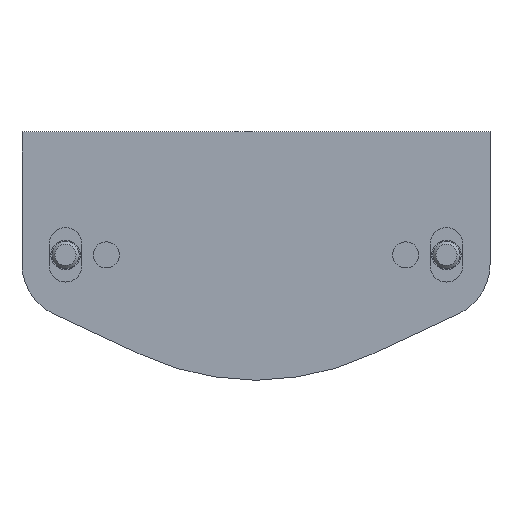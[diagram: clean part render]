
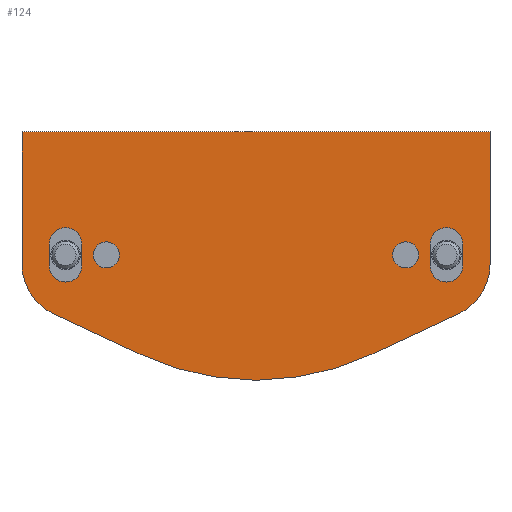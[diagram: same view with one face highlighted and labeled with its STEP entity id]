
A CAD part, front view. The second image highlights one B-rep face of the part: STEP entity #124.
In plain terms, the highlighted planar face has unit normal (0, -1, 0).
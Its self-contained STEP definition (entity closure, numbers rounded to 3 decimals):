
#124 = ADVANCED_FACE( '', ( #276, #277, #278, #279, #280 ), #281, .F. );
#276 = FACE_BOUND( '', #476, .T. );
#277 = FACE_BOUND( '', #477, .T. );
#278 = FACE_BOUND( '', #478, .T. );
#279 = FACE_BOUND( '', #479, .T. );
#280 = FACE_OUTER_BOUND( '', #480, .T. );
#281 = PLANE( '', #481 );
#476 = EDGE_LOOP( '', ( #918 ) );
#477 = EDGE_LOOP( '', ( #919 ) );
#478 = EDGE_LOOP( '', ( #920, #921, #922, #923 ) );
#479 = EDGE_LOOP( '', ( #924, #925, #926, #927 ) );
#480 = EDGE_LOOP( '', ( #928, #929, #930, #931, #932, #933, #934, #935, #936, #937 ) );
#481 = AXIS2_PLACEMENT_3D( '', #938, #939, #940 );
#918 = ORIENTED_EDGE( '', *, *, #1344, .T. );
#919 = ORIENTED_EDGE( '', *, *, #1345, .T. );
#920 = ORIENTED_EDGE( '', *, *, #1293, .T. );
#921 = ORIENTED_EDGE( '', *, *, #1292, .T. );
#922 = ORIENTED_EDGE( '', *, *, #1290, .T. );
#923 = ORIENTED_EDGE( '', *, *, #1288, .T. );
#924 = ORIENTED_EDGE( '', *, *, #1301, .T. );
#925 = ORIENTED_EDGE( '', *, *, #1300, .T. );
#926 = ORIENTED_EDGE( '', *, *, #1298, .T. );
#927 = ORIENTED_EDGE( '', *, *, #1296, .T. );
#928 = ORIENTED_EDGE( '', *, *, #1346, .T. );
#929 = ORIENTED_EDGE( '', *, *, #1318, .F. );
#930 = ORIENTED_EDGE( '', *, *, #1322, .F. );
#931 = ORIENTED_EDGE( '', *, *, #1325, .F. );
#932 = ORIENTED_EDGE( '', *, *, #1338, .T. );
#933 = ORIENTED_EDGE( '', *, *, #1347, .F. );
#934 = ORIENTED_EDGE( '', *, *, #1328, .F. );
#935 = ORIENTED_EDGE( '', *, *, #1332, .F. );
#936 = ORIENTED_EDGE( '', *, *, #1342, .F. );
#937 = ORIENTED_EDGE( '', *, *, #1348, .F. );
#938 = CARTESIAN_POINT( '', ( -21.5, 0., 11.3 ) );
#939 = DIRECTION( '', ( 0., 1., 0. ) );
#940 = DIRECTION( '', ( 0., 0., 1. ) );
#1288 = EDGE_CURVE( '', #1551, #1553, #1555, .T. );
#1290 = EDGE_CURVE( '', #1556, #1551, #1558, .T. );
#1292 = EDGE_CURVE( '', #1559, #1556, #1561, .T. );
#1293 = EDGE_CURVE( '', #1553, #1559, #1562, .T. );
#1296 = EDGE_CURVE( '', #1563, #1565, #1567, .T. );
#1298 = EDGE_CURVE( '', #1568, #1563, #1570, .T. );
#1300 = EDGE_CURVE( '', #1571, #1568, #1573, .T. );
#1301 = EDGE_CURVE( '', #1565, #1571, #1574, .T. );
#1318 = EDGE_CURVE( '', #1603, #1604, #1605, .T. );
#1322 = EDGE_CURVE( '', #1611, #1603, #1612, .T. );
#1325 = EDGE_CURVE( '', #1616, #1611, #1617, .T. );
#1328 = EDGE_CURVE( '', #1621, #1622, #1623, .T. );
#1332 = EDGE_CURVE( '', #1629, #1621, #1630, .T. );
#1338 = EDGE_CURVE( '', #1616, #1639, #1640, .T. );
#1342 = EDGE_CURVE( '', #1644, #1629, #1646, .T. );
#1344 = EDGE_CURVE( '', #1648, #1648, #1649, .T. );
#1345 = EDGE_CURVE( '', #1650, #1650, #1651, .T. );
#1346 = EDGE_CURVE( '', #1652, #1604, #1653, .T. );
#1347 = EDGE_CURVE( '', #1622, #1639, #1654, .T. );
#1348 = EDGE_CURVE( '', #1652, #1644, #1655, .T. );
#1551 = VERTEX_POINT( '', #1910 );
#1553 = VERTEX_POINT( '', #1913 );
#1555 = CIRCLE( '', #1916, 1.5 );
#1556 = VERTEX_POINT( '', #1917 );
#1558 = LINE( '', #1920, #1921 );
#1559 = VERTEX_POINT( '', #1922 );
#1561 = CIRCLE( '', #1925, 1.5 );
#1562 = LINE( '', #1926, #1927 );
#1563 = VERTEX_POINT( '', #1928 );
#1565 = VERTEX_POINT( '', #1931 );
#1567 = CIRCLE( '', #1934, 1.5 );
#1568 = VERTEX_POINT( '', #1935 );
#1570 = LINE( '', #1938, #1939 );
#1571 = VERTEX_POINT( '', #1940 );
#1573 = CIRCLE( '', #1943, 1.5 );
#1574 = LINE( '', #1944, #1945 );
#1603 = VERTEX_POINT( '', #1988 );
#1604 = VERTEX_POINT( '', #1989 );
#1605 = CIRCLE( '', #1990, 5. );
#1611 = VERTEX_POINT( '', #1998 );
#1612 = LINE( '', #1999, #2000 );
#1616 = VERTEX_POINT( '', #2006 );
#1617 = CIRCLE( '', #2007, 25. );
#1621 = VERTEX_POINT( '', #2012 );
#1622 = VERTEX_POINT( '', #2013 );
#1623 = LINE( '', #2014, #2015 );
#1629 = VERTEX_POINT( '', #2024 );
#1630 = CIRCLE( '', #2025, 5. );
#1639 = VERTEX_POINT( '', #2038 );
#1640 = LINE( '', #2039, #2040 );
#1644 = VERTEX_POINT( '', #2046 );
#1646 = LINE( '', #2049, #2050 );
#1648 = VERTEX_POINT( '', #2053 );
#1649 = CIRCLE( '', #2054, 1.2 );
#1650 = VERTEX_POINT( '', #2055 );
#1651 = CIRCLE( '', #2056, 1.2 );
#1652 = VERTEX_POINT( '', #2057 );
#1653 = LINE( '', #2058, #2059 );
#1654 = CIRCLE( '', #2060, 25. );
#1655 = LINE( '', #2061, #2062 );
#1910 = CARTESIAN_POINT( '', ( -16., 0., -1. ) );
#1913 = CARTESIAN_POINT( '', ( -19., 0., -1. ) );
#1916 = AXIS2_PLACEMENT_3D( '', #2346, #2347, #2348 );
#1917 = CARTESIAN_POINT( '', ( -16., 0., 1. ) );
#1920 = CARTESIAN_POINT( '', ( -16., 0., 1. ) );
#1921 = VECTOR( '', #2350, 1000. );
#1922 = CARTESIAN_POINT( '', ( -19., 0., 1. ) );
#1925 = AXIS2_PLACEMENT_3D( '', #2352, #2353, #2354 );
#1926 = CARTESIAN_POINT( '', ( -19., 0., -1. ) );
#1927 = VECTOR( '', #2355, 1000. );
#1928 = CARTESIAN_POINT( '', ( 19., 0., -1. ) );
#1931 = CARTESIAN_POINT( '', ( 16., 0., -1. ) );
#1934 = AXIS2_PLACEMENT_3D( '', #2358, #2359, #2360 );
#1935 = CARTESIAN_POINT( '', ( 19., 0., 1. ) );
#1938 = CARTESIAN_POINT( '', ( 19., 0., 1. ) );
#1939 = VECTOR( '', #2362, 1000. );
#1940 = CARTESIAN_POINT( '', ( 16., 0., 1. ) );
#1943 = AXIS2_PLACEMENT_3D( '', #2364, #2365, #2366 );
#1944 = CARTESIAN_POINT( '', ( 16., 0., -1. ) );
#1945 = VECTOR( '', #2367, 1000. );
#1988 = CARTESIAN_POINT( '', ( -18.613, 0., -5.407 ) );
#1989 = CARTESIAN_POINT( '', ( -21.5, 0., -0.876 ) );
#1990 = AXIS2_PLACEMENT_3D( '', #2388, #2389, #2390 );
#1998 = CARTESIAN_POINT( '', ( -10.565, 0., -9.16 ) );
#1999 = CARTESIAN_POINT( '', ( -10.565, 0., -9.16 ) );
#2000 = VECTOR( '', #2396, 1000. );
#2006 = CARTESIAN_POINT( '', ( -0.323, 0., -11.5 ) );
#2007 = AXIS2_PLACEMENT_3D( '', #2399, #2400, #2401 );
#2012 = CARTESIAN_POINT( '', ( 18.613, 0., -5.407 ) );
#2013 = CARTESIAN_POINT( '', ( 10.565, 0., -9.16 ) );
#2014 = CARTESIAN_POINT( '', ( 18.613, 0., -5.407 ) );
#2015 = VECTOR( '', #2406, 1000. );
#2024 = CARTESIAN_POINT( '', ( 21.5, 0., -0.876 ) );
#2025 = AXIS2_PLACEMENT_3D( '', #2410, #2411, #2412 );
#2038 = CARTESIAN_POINT( '', ( 0.323, 0., -11.5 ) );
#2039 = CARTESIAN_POINT( '', ( -21.5, 0., -11.5 ) );
#2040 = VECTOR( '', #2420, 1000. );
#2046 = CARTESIAN_POINT( '', ( 21.5, 0., 11.3 ) );
#2049 = CARTESIAN_POINT( '', ( 21.5, 0., 11.3 ) );
#2050 = VECTOR( '', #2424, 1000. );
#2053 = CARTESIAN_POINT( '', ( -12.55, 0., 0. ) );
#2054 = AXIS2_PLACEMENT_3D( '', #2426, #2427, #2428 );
#2055 = CARTESIAN_POINT( '', ( 14.95, 0., 0. ) );
#2056 = AXIS2_PLACEMENT_3D( '', #2429, #2430, #2431 );
#2057 = CARTESIAN_POINT( '', ( -21.5, 0., 11.3 ) );
#2058 = CARTESIAN_POINT( '', ( -21.5, 0., 11.3 ) );
#2059 = VECTOR( '', #2432, 1000. );
#2060 = AXIS2_PLACEMENT_3D( '', #2433, #2434, #2435 );
#2061 = CARTESIAN_POINT( '', ( -21.5, 0., 11.3 ) );
#2062 = VECTOR( '', #2436, 1000. );
#2346 = CARTESIAN_POINT( '', ( -17.5, 0., -1. ) );
#2347 = DIRECTION( '', ( 0., 1., 0. ) );
#2348 = DIRECTION( '', ( 1., 0., 0. ) );
#2350 = DIRECTION( '', ( 0., 0., -1. ) );
#2352 = CARTESIAN_POINT( '', ( -17.5, 0., 1. ) );
#2353 = DIRECTION( '', ( 0., 1., 0. ) );
#2354 = DIRECTION( '', ( 1., 0., 0. ) );
#2355 = DIRECTION( '', ( 0., 0., 1. ) );
#2358 = CARTESIAN_POINT( '', ( 17.5, 0., -1. ) );
#2359 = DIRECTION( '', ( 0., 1., 0. ) );
#2360 = DIRECTION( '', ( 1., 0., 0. ) );
#2362 = DIRECTION( '', ( 0., 0., -1. ) );
#2364 = CARTESIAN_POINT( '', ( 17.5, 0., 1. ) );
#2365 = DIRECTION( '', ( 0., 1., 0. ) );
#2366 = DIRECTION( '', ( 1., 0., 0. ) );
#2367 = DIRECTION( '', ( 0., 0., 1. ) );
#2388 = CARTESIAN_POINT( '', ( -16.5, 0., -0.876 ) );
#2389 = DIRECTION( '', ( 0., 1., 0. ) );
#2390 = DIRECTION( '', ( 1., 0., 0. ) );
#2396 = DIRECTION( '', ( -0.906, 0., 0.423 ) );
#2399 = CARTESIAN_POINT( '', ( 0., 0., 13.498 ) );
#2400 = DIRECTION( '', ( 0., 1., 0. ) );
#2401 = DIRECTION( '', ( 1., 0., 0. ) );
#2406 = DIRECTION( '', ( -0.906, 0., -0.423 ) );
#2410 = CARTESIAN_POINT( '', ( 16.5, 0., -0.876 ) );
#2411 = DIRECTION( '', ( 0., 1., 0. ) );
#2412 = DIRECTION( '', ( 1., 0., 0. ) );
#2420 = DIRECTION( '', ( 1., 0., 0. ) );
#2424 = DIRECTION( '', ( 0., 0., -1. ) );
#2426 = CARTESIAN_POINT( '', ( -13.75, 0., 0. ) );
#2427 = DIRECTION( '', ( 0., 1., 0. ) );
#2428 = DIRECTION( '', ( 1., 0., 0. ) );
#2429 = CARTESIAN_POINT( '', ( 13.75, 0., 0. ) );
#2430 = DIRECTION( '', ( 0., 1., 0. ) );
#2431 = DIRECTION( '', ( 1., 0., 0. ) );
#2432 = DIRECTION( '', ( 0., 0., -1. ) );
#2433 = CARTESIAN_POINT( '', ( 0., 0., 13.498 ) );
#2434 = DIRECTION( '', ( 0., 1., 0. ) );
#2435 = DIRECTION( '', ( 1., 0., 0. ) );
#2436 = DIRECTION( '', ( 1., 0., 0. ) );
